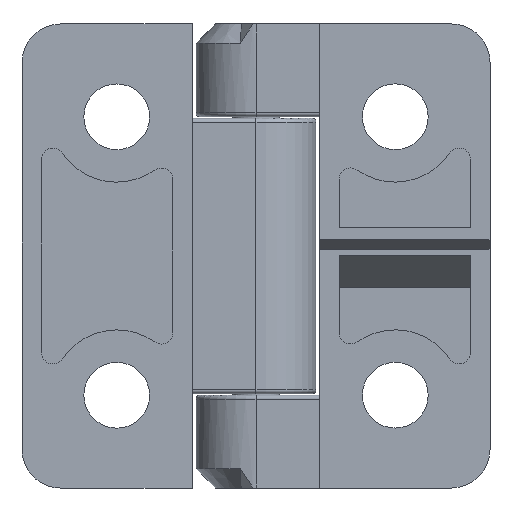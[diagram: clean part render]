
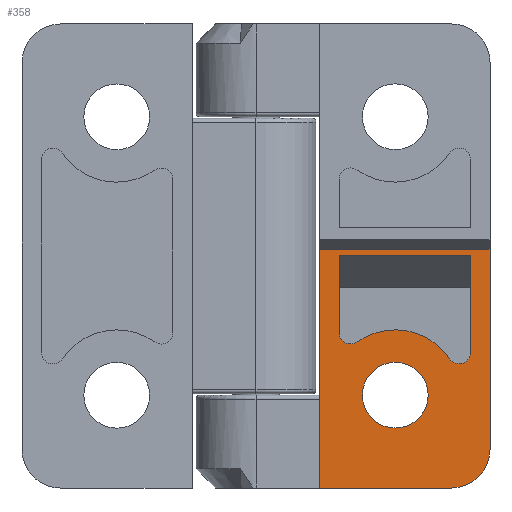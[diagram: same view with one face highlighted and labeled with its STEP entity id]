
A CAD part, front view. The second image highlights one B-rep face of the part: STEP entity #358.
In plain terms, the highlighted planar face has unit normal (0, -1, 0).
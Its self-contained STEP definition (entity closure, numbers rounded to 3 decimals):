
#43 = DIRECTION ( 'NONE',  ( 1., 0., 0. ) ) ;
#94 = CARTESIAN_POINT ( 'NONE',  ( 11.195, -22.112, -20.75 ) ) ;
#105 = VERTEX_POINT ( 'NONE', #4025 ) ;
#109 = CARTESIAN_POINT ( 'NONE',  ( -2.5, -22.112, -14.94 ) ) ;
#111 = EDGE_CURVE ( 'NONE', #3494, #3205, #879, .T. ) ;
#176 = CARTESIAN_POINT ( 'NONE',  ( 1.027, -22.112, -14.94 ) ) ;
#190 = CARTESIAN_POINT ( 'NONE',  ( -4.99, -22.112, 0.063 ) ) ;
#202 = ORIENTED_EDGE ( 'NONE', *, *, #4375, .F. ) ;
#216 = DIRECTION ( 'NONE',  ( 0., 0., 1. ) ) ;
#219 = VERTEX_POINT ( 'NONE', #4091 ) ;
#240 = DIRECTION ( 'NONE',  ( 0., 0., -1. ) ) ;
#313 = CARTESIAN_POINT ( 'NONE',  ( -3.745, -22.112, -9.445 ) ) ;
#317 = EDGE_LOOP ( 'NONE', ( #3230, #1954, #4371, #3533, #202, #3924, #2257, #2584 ) ) ;
#358 = ADVANCED_FACE ( 'NONE', ( #4206, #2060, #1756 ), #1732, .F. ) ;
#388 = EDGE_LOOP ( 'NONE', ( #3244, #2877 ) ) ;
#411 = EDGE_CURVE ( 'NONE', #4193, #2808, #2322, .T. ) ;
#418 = VERTEX_POINT ( 'NONE', #2578 ) ;
#480 = DIRECTION ( 'NONE',  ( 0., 0., -1. ) ) ;
#487 = CARTESIAN_POINT ( 'NONE',  ( 7.875, -22.112, -10.323 ) ) ;
#518 = DIRECTION ( 'NONE',  ( 0., 0., -1. ) ) ;
#601 = CARTESIAN_POINT ( 'NONE',  ( 7.875, -22.112, -10.323 ) ) ;
#629 = DIRECTION ( 'NONE',  ( 0., 0., 1. ) ) ;
#643 = VECTOR ( 'NONE', #2044, 1000. ) ;
#675 = CARTESIAN_POINT ( 'NONE',  ( 9.12, -22.112, -10.323 ) ) ;
#679 = LINE ( 'NONE', #2402, #643 ) ;
#767 = EDGE_CURVE ( 'NONE', #1191, #3000, #3082, .T. ) ;
#785 = DIRECTION ( 'NONE',  ( 0., 1., 0. ) ) ;
#792 = VECTOR ( 'NONE', #4448, 1000. ) ;
#801 = DIRECTION ( 'NONE',  ( 0., -1., 0. ) ) ;
#814 = VERTEX_POINT ( 'NONE', #190 ) ;
#879 = CIRCLE ( 'NONE', #1523, 3.527 ) ;
#901 = LINE ( 'NONE', #2271, #4436 ) ;
#996 = EDGE_CURVE ( 'NONE', #4003, #3868, #2904, .T. ) ;
#1034 = DIRECTION ( 'NONE',  ( 0., 0., -1. ) ) ;
#1035 = VERTEX_POINT ( 'NONE', #1154 ) ;
#1079 = LINE ( 'NONE', #1711, #792 ) ;
#1138 = DIRECTION ( 'NONE',  ( 0., 0., -1. ) ) ;
#1154 = CARTESIAN_POINT ( 'NONE',  ( 7.045, -22.112, -24.9 ) ) ;
#1155 = CIRCLE ( 'NONE', #3316, 1.245 ) ;
#1191 = VERTEX_POINT ( 'NONE', #1352 ) ;
#1219 = AXIS2_PLACEMENT_3D ( 'NONE', #2487, #3529, #216 ) ;
#1352 = CARTESIAN_POINT ( 'NONE',  ( 7.875, -22.112, -11.568 ) ) ;
#1386 = EDGE_CURVE ( 'NONE', #219, #105, #2786, .T. ) ;
#1397 = LINE ( 'NONE', #3127, #1650 ) ;
#1466 = DIRECTION ( 'NONE',  ( 0., 1., 0. ) ) ;
#1499 = CARTESIAN_POINT ( 'NONE',  ( -3.745, -22.112, -8.2 ) ) ;
#1517 = ORIENTED_EDGE ( 'NONE', *, *, #4243, .T. ) ;
#1523 = AXIS2_PLACEMENT_3D ( 'NONE', #3311, #4000, #629 ) ;
#1537 = VERTEX_POINT ( 'NONE', #313 ) ;
#1650 = VECTOR ( 'NONE', #43, 1000. ) ;
#1675 = DIRECTION ( 'NONE',  ( 0., 0., -1. ) ) ;
#1686 = CARTESIAN_POINT ( 'NONE',  ( -3.026, -22.112, -9.216 ) ) ;
#1711 = CARTESIAN_POINT ( 'NONE',  ( -7.065, -22.112, 0.063 ) ) ;
#1730 = CARTESIAN_POINT ( 'NONE',  ( 7.045, -22.112, -20.75 ) ) ;
#1732 = PLANE ( 'NONE',  #1820 ) ;
#1734 = AXIS2_PLACEMENT_3D ( 'NONE', #1730, #2176, #3212 ) ;
#1741 = ORIENTED_EDGE ( 'NONE', *, *, #2642, .F. ) ;
#1756 = FACE_OUTER_BOUND ( 'NONE', #4365, .T. ) ;
#1776 = CARTESIAN_POINT ( 'NONE',  ( -7.065, -22.112, 24.9 ) ) ;
#1820 = AXIS2_PLACEMENT_3D ( 'NONE', #1776, #1466, #3126 ) ;
#1857 = DIRECTION ( 'NONE',  ( 0., 0., -1. ) ) ;
#1871 = CARTESIAN_POINT ( 'NONE',  ( -4.99, -22.112, -8.2 ) ) ;
#1954 = ORIENTED_EDGE ( 'NONE', *, *, #3820, .T. ) ;
#1958 = AXIS2_PLACEMENT_3D ( 'NONE', #176, #785, #518 ) ;
#2021 = CIRCLE ( 'NONE', #4385, 1.245 ) ;
#2044 = DIRECTION ( 'NONE',  ( 0., 0., 1. ) ) ;
#2060 = FACE_BOUND ( 'NONE', #388, .T. ) ;
#2064 = EDGE_CURVE ( 'NONE', #814, #2329, #3339, .T. ) ;
#2110 = DIRECTION ( 'NONE',  ( 0., -1., 0. ) ) ;
#2166 = CARTESIAN_POINT ( 'NONE',  ( 11.195, -22.112, 24.9 ) ) ;
#2176 = DIRECTION ( 'NONE',  ( 0., -1., 0. ) ) ;
#2177 = VECTOR ( 'NONE', #480, 1000. ) ;
#2257 = ORIENTED_EDGE ( 'NONE', *, *, #4235, .F. ) ;
#2259 = DIRECTION ( 'NONE',  ( 0., -1., 0. ) ) ;
#2271 = CARTESIAN_POINT ( 'NONE',  ( -7.065, -22.112, -24.9 ) ) ;
#2322 = CIRCLE ( 'NONE', #1958, 7.014 ) ;
#2329 = VERTEX_POINT ( 'NONE', #1871 ) ;
#2382 = ORIENTED_EDGE ( 'NONE', *, *, #1386, .T. ) ;
#2402 = CARTESIAN_POINT ( 'NONE',  ( 9.12, -22.112, -10.323 ) ) ;
#2487 = CARTESIAN_POINT ( 'NONE',  ( 1.027, -22.112, -14.94 ) ) ;
#2509 = EDGE_CURVE ( 'NONE', #105, #1035, #901, .T. ) ;
#2578 = CARTESIAN_POINT ( 'NONE',  ( 9.12, -22.112, 0.063 ) ) ;
#2584 = ORIENTED_EDGE ( 'NONE', *, *, #4268, .F. ) ;
#2593 = CIRCLE ( 'NONE', #1734, 4.15 ) ;
#2607 = EDGE_CURVE ( 'NONE', #3000, #418, #679, .T. ) ;
#2642 = EDGE_CURVE ( 'NONE', #219, #4003, #1397, .T. ) ;
#2653 = ORIENTED_EDGE ( 'NONE', *, *, #996, .F. ) ;
#2667 = CARTESIAN_POINT ( 'NONE',  ( 6.843, -22.112, -11.019 ) ) ;
#2732 = DIRECTION ( 'NONE',  ( 0., -1., 0. ) ) ;
#2786 = LINE ( 'NONE', #3280, #3290 ) ;
#2808 = VERTEX_POINT ( 'NONE', #2667 ) ;
#2858 = VECTOR ( 'NONE', #1675, 1000. ) ;
#2877 = ORIENTED_EDGE ( 'NONE', *, *, #111, .T. ) ;
#2904 = LINE ( 'NONE', #2166, #2177 ) ;
#3000 = VERTEX_POINT ( 'NONE', #675 ) ;
#3062 = CARTESIAN_POINT ( 'NONE',  ( -4.99, -22.112, -3.419 ) ) ;
#3082 = CIRCLE ( 'NONE', #4300, 1.245 ) ;
#3092 = CARTESIAN_POINT ( 'NONE',  ( 4.555, -22.112, -14.94 ) ) ;
#3126 = DIRECTION ( 'NONE',  ( 1., 0., 0. ) ) ;
#3127 = CARTESIAN_POINT ( 'NONE',  ( -9.555, -22.112, 0.731 ) ) ;
#3205 = VERTEX_POINT ( 'NONE', #109 ) ;
#3212 = DIRECTION ( 'NONE',  ( 0., 0., 1. ) ) ;
#3230 = ORIENTED_EDGE ( 'NONE', *, *, #2064, .F. ) ;
#3240 = DIRECTION ( 'NONE',  ( 0., 0., -1. ) ) ;
#3244 = ORIENTED_EDGE ( 'NONE', *, *, #3249, .T. ) ;
#3245 = CIRCLE ( 'NONE', #3673, 1.245 ) ;
#3249 = EDGE_CURVE ( 'NONE', #3205, #3494, #4377, .T. ) ;
#3280 = CARTESIAN_POINT ( 'NONE',  ( -7.065, -22.112, 24.9 ) ) ;
#3290 = VECTOR ( 'NONE', #3240, 1000. ) ;
#3311 = CARTESIAN_POINT ( 'NONE',  ( 1.027, -22.112, -14.94 ) ) ;
#3316 = AXIS2_PLACEMENT_3D ( 'NONE', #1499, #801, #1138 ) ;
#3339 = LINE ( 'NONE', #3062, #2858 ) ;
#3419 = DIRECTION ( 'NONE',  ( 1., 0., 0. ) ) ;
#3494 = VERTEX_POINT ( 'NONE', #3092 ) ;
#3529 = DIRECTION ( 'NONE',  ( 0., 1., 0. ) ) ;
#3533 = ORIENTED_EDGE ( 'NONE', *, *, #767, .F. ) ;
#3673 = AXIS2_PLACEMENT_3D ( 'NONE', #4441, #2732, #1034 ) ;
#3820 = EDGE_CURVE ( 'NONE', #814, #418, #1079, .T. ) ;
#3868 = VERTEX_POINT ( 'NONE', #94 ) ;
#3924 = ORIENTED_EDGE ( 'NONE', *, *, #411, .F. ) ;
#3980 = CARTESIAN_POINT ( 'NONE',  ( 11.195, -22.112, 0.731 ) ) ;
#4000 = DIRECTION ( 'NONE',  ( 0., 1., 0. ) ) ;
#4003 = VERTEX_POINT ( 'NONE', #3980 ) ;
#4025 = CARTESIAN_POINT ( 'NONE',  ( -7.065, -22.112, -24.9 ) ) ;
#4091 = CARTESIAN_POINT ( 'NONE',  ( -7.065, -22.112, 0.731 ) ) ;
#4193 = VERTEX_POINT ( 'NONE', #1686 ) ;
#4206 = FACE_BOUND ( 'NONE', #317, .T. ) ;
#4235 = EDGE_CURVE ( 'NONE', #1537, #4193, #3245, .T. ) ;
#4243 = EDGE_CURVE ( 'NONE', #1035, #3868, #2593, .T. ) ;
#4261 = ORIENTED_EDGE ( 'NONE', *, *, #2509, .T. ) ;
#4268 = EDGE_CURVE ( 'NONE', #2329, #1537, #1155, .T. ) ;
#4300 = AXIS2_PLACEMENT_3D ( 'NONE', #601, #2259, #240 ) ;
#4365 = EDGE_LOOP ( 'NONE', ( #2653, #1741, #2382, #4261, #1517 ) ) ;
#4371 = ORIENTED_EDGE ( 'NONE', *, *, #2607, .F. ) ;
#4375 = EDGE_CURVE ( 'NONE', #2808, #1191, #2021, .T. ) ;
#4377 = CIRCLE ( 'NONE', #1219, 3.527 ) ;
#4385 = AXIS2_PLACEMENT_3D ( 'NONE', #487, #2110, #1857 ) ;
#4436 = VECTOR ( 'NONE', #3419, 1000. ) ;
#4441 = CARTESIAN_POINT ( 'NONE',  ( -3.745, -22.112, -8.2 ) ) ;
#4448 = DIRECTION ( 'NONE',  ( 1., 0., 0. ) ) ;
